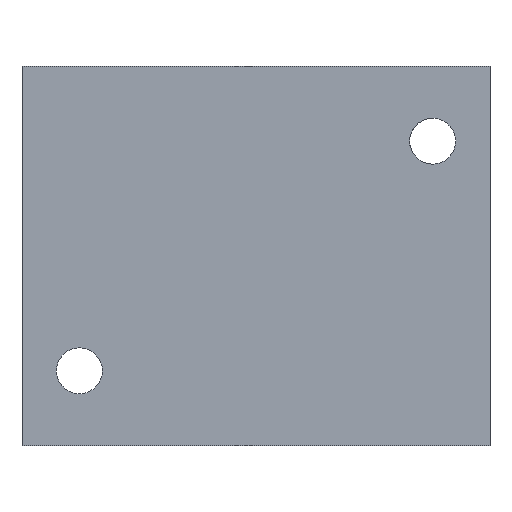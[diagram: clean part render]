
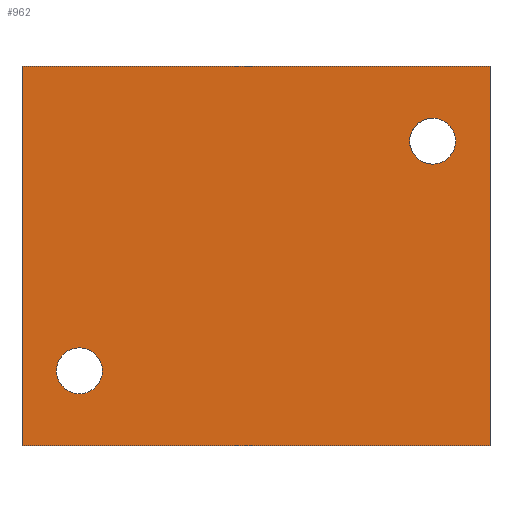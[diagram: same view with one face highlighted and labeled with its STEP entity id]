
A CAD part, front view. The second image highlights one B-rep face of the part: STEP entity #962.
In plain terms, the highlighted planar face has unit normal (0, -1, 0).
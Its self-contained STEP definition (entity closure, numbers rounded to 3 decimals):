
#2 = CARTESIAN_POINT ( 'NONE',  ( -26.5, -17.5, 21.5 ) ) ;
#45 = EDGE_CURVE ( 'NONE', #1790, #424, #846, .T. ) ;
#63 = CARTESIAN_POINT ( 'NONE',  ( -20., -17.5, -10.4 ) ) ;
#136 = EDGE_CURVE ( 'NONE', #1153, #741, #1928, .T. ) ;
#192 = DIRECTION ( 'NONE',  ( 0., 1., 0. ) ) ;
#223 = VERTEX_POINT ( 'NONE', #1211 ) ;
#224 = EDGE_CURVE ( 'NONE', #1982, #223, #382, .T. ) ;
#228 = PLANE ( 'NONE',  #1288 ) ;
#337 = AXIS2_PLACEMENT_3D ( 'NONE', #1606, #604, #1453 ) ;
#382 = LINE ( 'NONE', #2016, #1356 ) ;
#401 = ORIENTED_EDGE ( 'NONE', *, *, #652, .F. ) ;
#424 = VERTEX_POINT ( 'NONE', #938 ) ;
#493 = CARTESIAN_POINT ( 'NONE',  ( -20., -17.5, -15.6 ) ) ;
#561 = DIRECTION ( 'NONE',  ( 0., 0., -1. ) ) ;
#592 = CARTESIAN_POINT ( 'NONE',  ( -20., -17.5, -13. ) ) ;
#604 = DIRECTION ( 'NONE',  ( 0., -1., 0. ) ) ;
#652 = EDGE_CURVE ( 'NONE', #2085, #1716, #1495, .T. ) ;
#666 = CARTESIAN_POINT ( 'NONE',  ( -26.5, -17.5, 21.5 ) ) ;
#732 = CARTESIAN_POINT ( 'NONE',  ( -20., -17.5, -13. ) ) ;
#741 = VERTEX_POINT ( 'NONE', #1841 ) ;
#745 = EDGE_CURVE ( 'NONE', #1153, #1982, #1194, .T. ) ;
#846 = CIRCLE ( 'NONE', #1600, 2.6 ) ;
#859 = FACE_BOUND ( 'NONE', #1357, .T. ) ;
#874 = EDGE_LOOP ( 'NONE', ( #1303, #401 ) ) ;
#894 = CARTESIAN_POINT ( 'NONE',  ( 20., -17.5, 13. ) ) ;
#905 = DIRECTION ( 'NONE',  ( 0., 0., -1. ) ) ;
#938 = CARTESIAN_POINT ( 'NONE',  ( 20., -17.5, 10.4 ) ) ;
#962 = ADVANCED_FACE ( 'NONE', ( #859, #1309, #1498 ), #228, .F. ) ;
#984 = DIRECTION ( 'NONE',  ( 1., 0., 0. ) ) ;
#1033 = DIRECTION ( 'NONE',  ( 0., 0., 1. ) ) ;
#1048 = CIRCLE ( 'NONE', #1107, 2.6 ) ;
#1052 = DIRECTION ( 'NONE',  ( 0., -1., 0. ) ) ;
#1067 = DIRECTION ( 'NONE',  ( 0., 0., -1. ) ) ;
#1107 = AXIS2_PLACEMENT_3D ( 'NONE', #732, #2039, #561 ) ;
#1153 = VERTEX_POINT ( 'NONE', #1795 ) ;
#1163 = ORIENTED_EDGE ( 'NONE', *, *, #1503, .F. ) ;
#1177 = DIRECTION ( 'NONE',  ( 0., 0., -1. ) ) ;
#1194 = LINE ( 'NONE', #1513, #1833 ) ;
#1211 = CARTESIAN_POINT ( 'NONE',  ( 26.5, -17.5, -21.5 ) ) ;
#1288 = AXIS2_PLACEMENT_3D ( 'NONE', #666, #192, #1033 ) ;
#1303 = ORIENTED_EDGE ( 'NONE', *, *, #2086, .F. ) ;
#1309 = FACE_BOUND ( 'NONE', #874, .T. ) ;
#1356 = VECTOR ( 'NONE', #1497, 1000. ) ;
#1357 = EDGE_LOOP ( 'NONE', ( #1163, #1844 ) ) ;
#1375 = VECTOR ( 'NONE', #1444, 1000. ) ;
#1440 = ORIENTED_EDGE ( 'NONE', *, *, #1589, .F. ) ;
#1444 = DIRECTION ( 'NONE',  ( 0., 0., -1. ) ) ;
#1453 = DIRECTION ( 'NONE',  ( 0., 0., -1. ) ) ;
#1461 = VECTOR ( 'NONE', #984, 1000. ) ;
#1495 = CIRCLE ( 'NONE', #1772, 2.6 ) ;
#1497 = DIRECTION ( 'NONE',  ( 1., 0., 0. ) ) ;
#1498 = FACE_OUTER_BOUND ( 'NONE', #1900, .T. ) ;
#1503 = EDGE_CURVE ( 'NONE', #424, #1790, #1624, .T. ) ;
#1513 = CARTESIAN_POINT ( 'NONE',  ( -26.5, -17.5, 21.5 ) ) ;
#1526 = ORIENTED_EDGE ( 'NONE', *, *, #745, .T. ) ;
#1544 = CARTESIAN_POINT ( 'NONE',  ( 20., -17.5, 15.6 ) ) ;
#1589 = EDGE_CURVE ( 'NONE', #741, #223, #1743, .T. ) ;
#1600 = AXIS2_PLACEMENT_3D ( 'NONE', #894, #1052, #905 ) ;
#1606 = CARTESIAN_POINT ( 'NONE',  ( 20., -17.5, 13. ) ) ;
#1614 = CARTESIAN_POINT ( 'NONE',  ( 26.5, -17.5, 21.5 ) ) ;
#1624 = CIRCLE ( 'NONE', #337, 2.6 ) ;
#1716 = VERTEX_POINT ( 'NONE', #493 ) ;
#1743 = LINE ( 'NONE', #1614, #1375 ) ;
#1772 = AXIS2_PLACEMENT_3D ( 'NONE', #592, #1885, #1067 ) ;
#1790 = VERTEX_POINT ( 'NONE', #1544 ) ;
#1791 = ORIENTED_EDGE ( 'NONE', *, *, #224, .T. ) ;
#1795 = CARTESIAN_POINT ( 'NONE',  ( -26.5, -17.5, 21.5 ) ) ;
#1833 = VECTOR ( 'NONE', #1177, 1000. ) ;
#1841 = CARTESIAN_POINT ( 'NONE',  ( 26.5, -17.5, 21.5 ) ) ;
#1844 = ORIENTED_EDGE ( 'NONE', *, *, #45, .F. ) ;
#1885 = DIRECTION ( 'NONE',  ( 0., -1., 0. ) ) ;
#1900 = EDGE_LOOP ( 'NONE', ( #1791, #1440, #2072, #1526 ) ) ;
#1928 = LINE ( 'NONE', #2, #1461 ) ;
#1951 = CARTESIAN_POINT ( 'NONE',  ( -26.5, -17.5, -21.5 ) ) ;
#1982 = VERTEX_POINT ( 'NONE', #1951 ) ;
#2016 = CARTESIAN_POINT ( 'NONE',  ( -26.5, -17.5, -21.5 ) ) ;
#2039 = DIRECTION ( 'NONE',  ( 0., -1., 0. ) ) ;
#2072 = ORIENTED_EDGE ( 'NONE', *, *, #136, .F. ) ;
#2085 = VERTEX_POINT ( 'NONE', #63 ) ;
#2086 = EDGE_CURVE ( 'NONE', #1716, #2085, #1048, .T. ) ;
